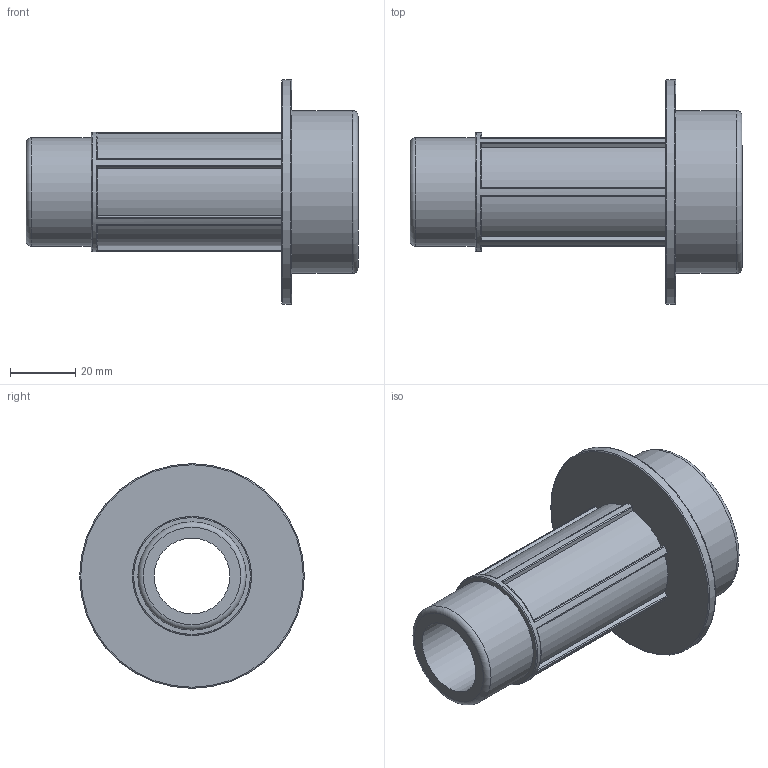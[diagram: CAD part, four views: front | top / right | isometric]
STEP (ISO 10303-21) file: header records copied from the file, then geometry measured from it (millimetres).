
FILE_DESCRIPTION(/* description */ ('PLASSON THREADED MALE ADAPTOR 50-1"'),/* implementation_level */ '2;1');
FILE_NAME(/* name */ 'C:\Dropbox\KIMPROJECTS-Inventor\99-16-3568-Processing\Silver+MF ISRAEL\078901\078901050010.ipt.stp',/* time_stamp */ '2018-04-09T13:01:59+03:00',/* author */ ('KIM'),/* organization */ (''),/* preprocessor_version */ 'ST-DEVELOPER v15.6',/* originating_system */ 'Autodesk Inventor 2015',/* authorisation */ '');
FILE_SCHEMA (('AUTOMOTIVE_DESIGN { 1 0 10303 214 3 1 1 }'));
Length unit declared in the file: millimetre
Products named in the file (1): 078901050010
Bounding box: 102 x 69 x 69 mm (x, y, z)
Volume: 77979.5 mm3; surface area: 27256.4 mm2
Topology: 1 solids, 1 shells, 57 faces, 151 edges, 99 vertices
Faces by surface type: cylinder 23, plane 23, torus 11
Full cylindrical faces by diameter (mm): 23.274 x1, 33.249 x1, 36.574 x1, 50 x1, 69 x1
Entity records: 1894 total; most frequent: CARTESIAN_POINT 488, DIRECTION 288, ORIENTED_EDGE 280, EDGE_CURVE 140, AXIS2_PLACEMENT_3D 114, VERTEX_POINT 98, EDGE_LOOP 72, LINE 60
